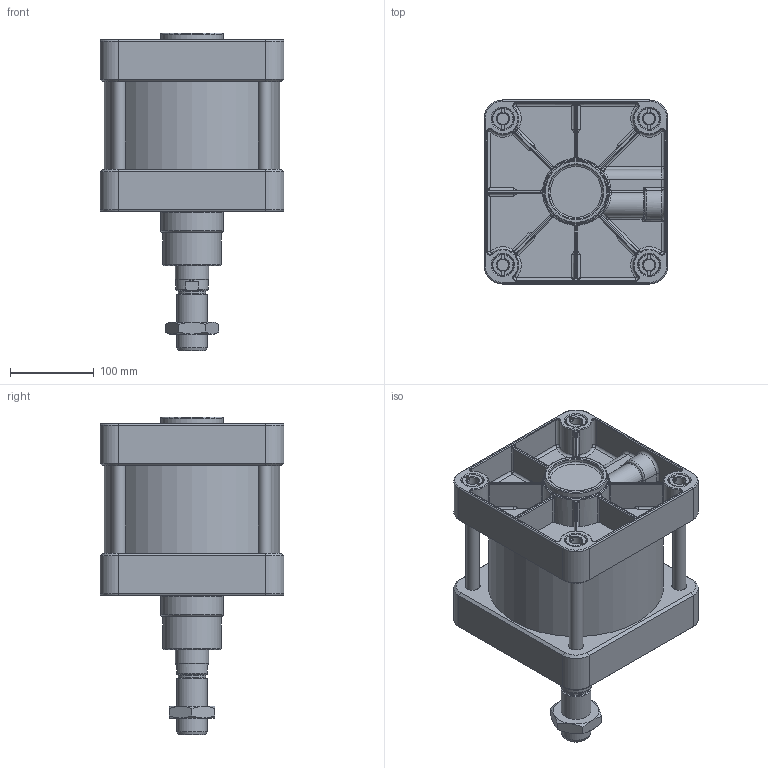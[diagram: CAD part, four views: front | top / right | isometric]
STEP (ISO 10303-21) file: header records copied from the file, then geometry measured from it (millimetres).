
FILE_DESCRIPTION(/* description */ ('Unknown'),/* implementation_level */ '2;1');
FILE_NAME(/* name */ 'UDM 200_25',/* time_stamp */ '2024-08-15T10:36:22+02:00',/* author */ ('Unknown'),/* organization */ ('Unknown'),/* preprocessor_version */ 'ST-DEVELOPER v16.7',/* originating_system */ 'Solid Edge',/* authorisation */ 'Unknown');
FILE_SCHEMA (('AUTOMOTIVE_DESIGN {1 0 10303 214 3 1 1}'));
Length unit declared in the file: millimetre
Products named in the file (7): UDM 200_25; Profilrohr 200_25; Mutter; Kolbenstange 200_25; Kit_1; Zugstange 200_25; Kit_2
Assembly tree (9 placements, depth 2):
  UDM 200_25
    Profilrohr 200_25
    Mutter
    Kolbenstange 200_25
    Kit_1
    Zugstange 200_25  x4
    Kit_2
Bounding box: 220 x 220 x 380 mm (x, y, z)
Volume: 5520820.1 mm3; surface area: 855758.9 mm2
Topology: 9 solids, 13 shells, 1257 faces, 3096 edges, 1836 vertices
Faces by surface type: cylinder 396, plane 368, torus 191, bspline 154, cone 124, sphere 24
Full cylindrical faces by diameter (mm): 8 x2, 8.2 x2, 12 x2, 13.8 x4, 13.82 x4, 13.835 x8, 16 x6, 17.5 x8, 18 x2, 24.117 x2, 25 x8, 26 x8, 32.8 x1, 33.835 x1, 36 x3, 39 x1, 40 x1, 40.6 x3, 40.8 x1, 40.962 x1, 45 x2, 50 x2, 51.5 x1, 65 x1, 70 x1, 75 x2, 80 x1, 200 x2, 210 x1
Entity records: 52261 total; most frequent: CARTESIAN_POINT 16994, ORIENTED_EDGE 5810, DIRECTION 4880, EDGE_CURVE 2905, AXIS2_PLACEMENT_3D 1934, VERTEX_POINT 1799, EDGE_LOOP 1382, FACE_BOUND 1382
